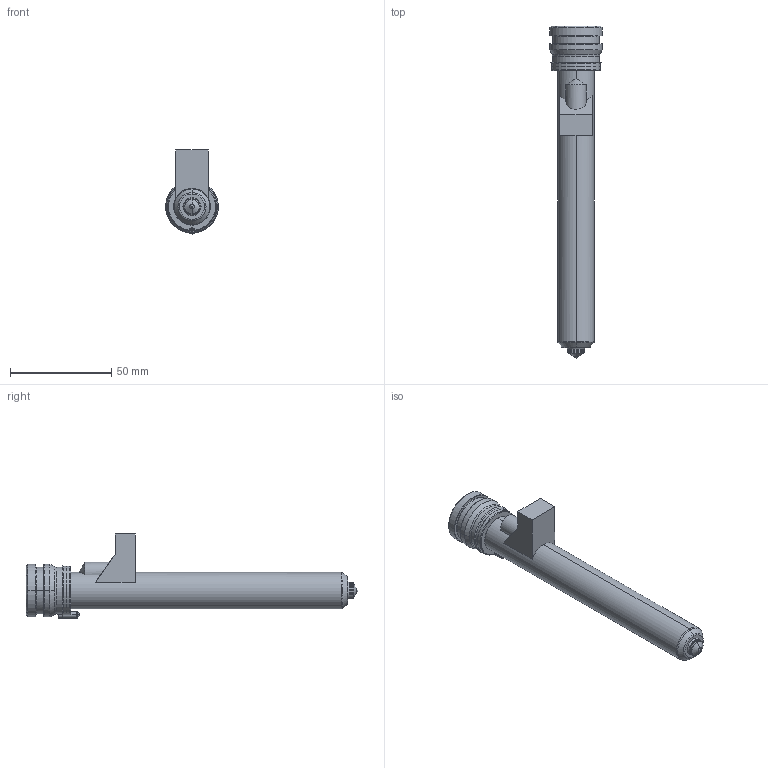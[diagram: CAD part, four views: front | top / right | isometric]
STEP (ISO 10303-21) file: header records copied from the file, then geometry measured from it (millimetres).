
FILE_DESCRIPTION((''),'2;1');
FILE_NAME('MPN-08-24-TS8-146-M','2026-02-05T13:24:59',('UPTIO'),('Thermoplay S.p.A.'),'CREO PARAMETRIC BY PTC INC, 2023494','CREO PARAMETRIC BY PTC INC, 2023494','');
FILE_SCHEMA(('CONFIG_CONTROL_DESIGN','SHAPE_APPEARANCE_LAYERS_GROUPS'));
Length unit declared in the file: millimetre
Products named in the file (1): MPN-08-24-TS8-146-M
Bounding box: 26 x 164 x 41.5 mm (x, y, z)
Volume: 31348.3 mm3; surface area: 41617.2 mm2
Topology: 2 solids, 5 shells, 532 faces, 1371 edges, 843 vertices
Faces by surface type: cylinder 172, plane 146, bspline 77, torus 62, cone 58, sphere 11, extrusion 6
Entity records: 27996 total; most frequent: CARTESIAN_POINT 12357, ORIENTED_EDGE 2720, DIRECTION 2456, EDGE_CURVE 1360, AXIS2_PLACEMENT_3D 960, VERTEX_POINT 843, EDGE_LOOP 561, VECTOR 536
